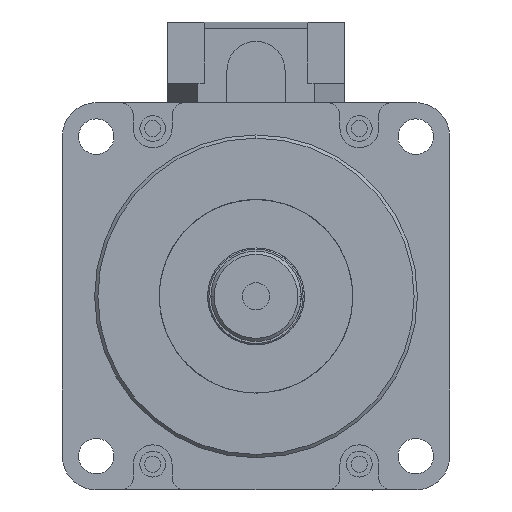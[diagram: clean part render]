
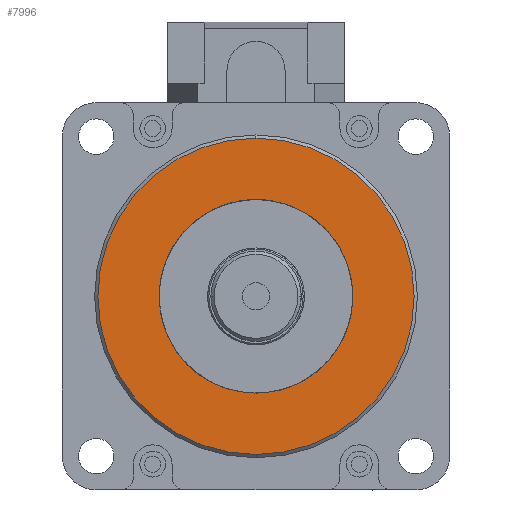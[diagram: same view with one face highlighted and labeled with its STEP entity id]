
A CAD part, left-side view. The second image highlights one B-rep face of the part: STEP entity #7996.
In plain terms, the highlighted planar face has unit normal (-1, 0, 0).
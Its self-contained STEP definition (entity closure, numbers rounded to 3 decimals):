
#451 = CARTESIAN_POINT ( 'NONE',  ( 43.819, -124.014, 0. ) ) ;
#565 = AXIS2_PLACEMENT_3D ( 'NONE', #3520, #3580, #6686 ) ;
#685 = DIRECTION ( 'NONE',  ( -1., 0., 0. ) ) ;
#1125 = ORIENTED_EDGE ( 'NONE', *, *, #6672, .F. ) ;
#1631 = AXIS2_PLACEMENT_3D ( 'NONE', #8512, #6179, #6274 ) ;
#1656 = CARTESIAN_POINT ( 'NONE',  ( 43.819, -124.014, 0. ) ) ;
#2196 = VERTEX_POINT ( 'NONE', #8995 ) ;
#2250 = CARTESIAN_POINT ( 'NONE',  ( 43.819, -124.014, -15. ) ) ;
#2844 = DIRECTION ( 'NONE',  ( 0., 0., 1. ) ) ;
#2914 = VERTEX_POINT ( 'NONE', #2250 ) ;
#2927 = AXIS2_PLACEMENT_3D ( 'NONE', #451, #5914, #2844 ) ;
#3089 = CARTESIAN_POINT ( 'NONE',  ( 43.819, -124.014, 24.5 ) ) ;
#3355 = CIRCLE ( 'NONE', #565, 15. ) ;
#3520 = CARTESIAN_POINT ( 'NONE',  ( 43.819, -124.014, 0. ) ) ;
#3580 = DIRECTION ( 'NONE',  ( -1., 0., 0. ) ) ;
#3692 = DIRECTION ( 'NONE',  ( 0., 0., 1. ) ) ;
#3924 = EDGE_CURVE ( 'NONE', #2914, #2196, #9244, .T. ) ;
#3925 = PLANE ( 'NONE',  #7910 ) ;
#4009 = AXIS2_PLACEMENT_3D ( 'NONE', #6817, #685, #3692 ) ;
#4115 = EDGE_LOOP ( 'NONE', ( #1125, #7018 ) ) ;
#4366 = CIRCLE ( 'NONE', #1631, 24.5 ) ;
#4464 = VERTEX_POINT ( 'NONE', #4962 ) ;
#4685 = VERTEX_POINT ( 'NONE', #3089 ) ;
#4962 = CARTESIAN_POINT ( 'NONE',  ( 43.819, -124.014, -24.5 ) ) ;
#5277 = EDGE_LOOP ( 'NONE', ( #6732, #5396 ) ) ;
#5396 = ORIENTED_EDGE ( 'NONE', *, *, #9462, .T. ) ;
#5914 = DIRECTION ( 'NONE',  ( -1., 0., 0. ) ) ;
#6179 = DIRECTION ( 'NONE',  ( -1., 0., 0. ) ) ;
#6274 = DIRECTION ( 'NONE',  ( 0., 0., 1. ) ) ;
#6663 = EDGE_CURVE ( 'NONE', #4464, #4685, #9254, .T. ) ;
#6672 = EDGE_CURVE ( 'NONE', #2196, #2914, #3355, .T. ) ;
#6686 = DIRECTION ( 'NONE',  ( 0., 0., 1. ) ) ;
#6732 = ORIENTED_EDGE ( 'NONE', *, *, #6663, .T. ) ;
#6817 = CARTESIAN_POINT ( 'NONE',  ( 43.819, -124.014, 0. ) ) ;
#7018 = ORIENTED_EDGE ( 'NONE', *, *, #3924, .F. ) ;
#7034 = DIRECTION ( 'NONE',  ( -1., 0., 0. ) ) ;
#7064 = DIRECTION ( 'NONE',  ( 0., 0., 1. ) ) ;
#7382 = FACE_OUTER_BOUND ( 'NONE', #5277, .T. ) ;
#7910 = AXIS2_PLACEMENT_3D ( 'NONE', #1656, #7034, #7064 ) ;
#7996 = ADVANCED_FACE ( 'NONE', ( #8702, #7382 ), #3925, .T. ) ;
#8512 = CARTESIAN_POINT ( 'NONE',  ( 43.819, -124.014, 0. ) ) ;
#8702 = FACE_BOUND ( 'NONE', #4115, .T. ) ;
#8995 = CARTESIAN_POINT ( 'NONE',  ( 43.819, -124.014, 15. ) ) ;
#9244 = CIRCLE ( 'NONE', #4009, 15. ) ;
#9254 = CIRCLE ( 'NONE', #2927, 24.5 ) ;
#9462 = EDGE_CURVE ( 'NONE', #4685, #4464, #4366, .T. ) ;
